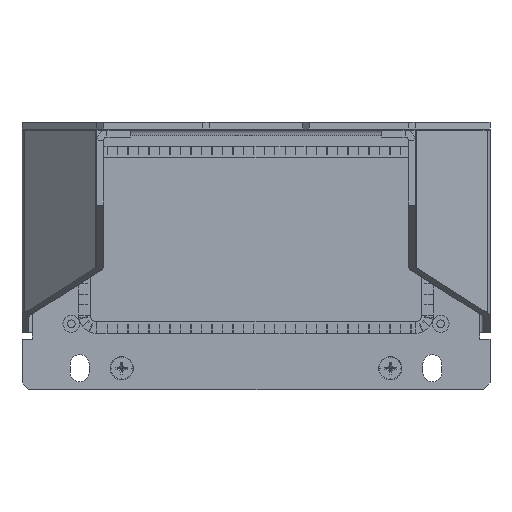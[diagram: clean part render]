
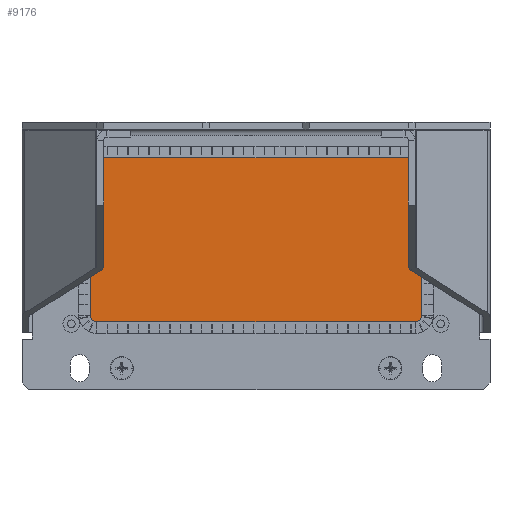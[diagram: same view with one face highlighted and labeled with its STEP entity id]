
A CAD part, left-side view. The second image highlights one B-rep face of the part: STEP entity #9176.
In plain terms, the highlighted planar face has unit normal (-1, 0, 0) as drawn and (0, 0, -1) by its records, which use the part's own axes.
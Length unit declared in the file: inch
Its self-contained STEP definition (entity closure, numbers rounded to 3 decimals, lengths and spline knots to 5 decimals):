
#8773=CARTESIAN_POINT('',(-1.25,2.75,-0.048));
#8774=DIRECTION('',(0.,0.,1.));
#8775=DIRECTION('',(-1.,0.,0.));
#8776=AXIS2_PLACEMENT_3D('',#8773,#8774,#8775);
#8778=CARTESIAN_POINT('',(-1.25,2.75,-0.048));
#8779=DIRECTION('',(0.,0.,1.));
#8780=DIRECTION('',(1.,0.,0.));
#8781=AXIS2_PLACEMENT_3D('',#8778,#8779,#8780);
#8783=CARTESIAN_POINT('',(1.25,2.75,-0.048));
#8784=DIRECTION('',(0.,0.,-1.));
#8785=DIRECTION('',(1.,0.,0.));
#8786=AXIS2_PLACEMENT_3D('',#8783,#8784,#8785);
#8788=CARTESIAN_POINT('',(1.25,2.75,-0.048));
#8789=DIRECTION('',(0.,0.,-1.));
#8790=DIRECTION('',(-1.,0.,0.));
#8791=AXIS2_PLACEMENT_3D('',#8788,#8789,#8790);
#8793=CARTESIAN_POINT('',(-1.25,-2.75,-0.048));
#8794=DIRECTION('',(0.,0.,-1.));
#8795=DIRECTION('',(-1.,0.,0.));
#8796=AXIS2_PLACEMENT_3D('',#8793,#8794,#8795);
#8798=CARTESIAN_POINT('',(-1.25,-2.75,-0.048));
#8799=DIRECTION('',(0.,0.,-1.));
#8800=DIRECTION('',(1.,0.,0.));
#8801=AXIS2_PLACEMENT_3D('',#8798,#8799,#8800);
#8803=CARTESIAN_POINT('',(1.25,-2.75,-0.048));
#8804=DIRECTION('',(0.,0.,1.));
#8805=DIRECTION('',(1.,0.,0.));
#8806=AXIS2_PLACEMENT_3D('',#8803,#8804,#8805);
#8808=CARTESIAN_POINT('',(1.25,-2.75,-0.048));
#8809=DIRECTION('',(0.,0.,1.));
#8810=DIRECTION('',(-1.,0.,0.));
#8811=AXIS2_PLACEMENT_3D('',#8808,#8809,#8810);
#8813=CARTESIAN_POINT('',(-1.375,2.875,-0.048));
#8814=DIRECTION('',(0.,0.,-1.));
#8815=DIRECTION('',(-1.,0.,0.));
#8816=AXIS2_PLACEMENT_3D('',#8813,#8814,#8815);
#8818=DIRECTION('',(0.,-1.,0.));
#8819=VECTOR('',#8818,5.75);
#8820=CARTESIAN_POINT('',(-1.5,2.875,-0.048));
#8821=LINE('',#8820,#8819);
#8822=CARTESIAN_POINT('',(-1.375,-2.875,-0.048));
#8823=DIRECTION('',(0.,0.,-1.));
#8824=DIRECTION('',(0.,-1.,0.));
#8825=AXIS2_PLACEMENT_3D('',#8822,#8823,#8824);
#8827=DIRECTION('',(1.,0.,0.));
#8828=VECTOR('',#8827,2.75);
#8829=CARTESIAN_POINT('',(-1.375,-3.,-0.048));
#8830=LINE('',#8829,#8828);
#8831=CARTESIAN_POINT('',(1.375,-2.875,-0.048));
#8832=DIRECTION('',(0.,0.,-1.));
#8833=DIRECTION('',(1.,0.,0.));
#8834=AXIS2_PLACEMENT_3D('',#8831,#8832,#8833);
#8836=DIRECTION('',(0.,1.,0.));
#8837=VECTOR('',#8836,5.75);
#8838=CARTESIAN_POINT('',(1.5,-2.875,-0.048));
#8839=LINE('',#8838,#8837);
#8840=CARTESIAN_POINT('',(1.375,2.875,-0.048));
#8841=DIRECTION('',(0.,0.,-1.));
#8842=DIRECTION('',(0.,1.,0.));
#8843=AXIS2_PLACEMENT_3D('',#8840,#8841,#8842);
#8845=DIRECTION('',(-1.,0.,0.));
#8846=VECTOR('',#8845,2.75);
#8847=CARTESIAN_POINT('',(1.375,3.,-0.048));
#8848=LINE('',#8847,#8846);
#8967=CARTESIAN_POINT('',(-1.332,2.75,-0.048));
#8968=CARTESIAN_POINT('',(-1.168,2.75,-0.048));
#8969=VERTEX_POINT('',#8967);
#8970=VERTEX_POINT('',#8968);
#8979=CARTESIAN_POINT('',(1.332,2.75,-0.048));
#8980=CARTESIAN_POINT('',(1.168,2.75,-0.048));
#8981=VERTEX_POINT('',#8979);
#8982=VERTEX_POINT('',#8980);
#8991=CARTESIAN_POINT('',(-1.332,-2.75,-0.048));
#8992=CARTESIAN_POINT('',(-1.168,-2.75,-0.048));
#8993=VERTEX_POINT('',#8991);
#8994=VERTEX_POINT('',#8992);
#9003=CARTESIAN_POINT('',(1.332,-2.75,-0.048));
#9004=CARTESIAN_POINT('',(1.168,-2.75,-0.048));
#9005=VERTEX_POINT('',#9003);
#9006=VERTEX_POINT('',#9004);
#9011=CARTESIAN_POINT('',(-1.5,2.875,-0.048));
#9012=VERTEX_POINT('',#9011);
#9013=CARTESIAN_POINT('',(-1.375,3.,-0.048));
#9014=VERTEX_POINT('',#9013);
#9019=CARTESIAN_POINT('',(1.375,3.,-0.048));
#9020=VERTEX_POINT('',#9019);
#9021=CARTESIAN_POINT('',(1.5,2.875,-0.048));
#9022=VERTEX_POINT('',#9021);
#9027=CARTESIAN_POINT('',(-1.375,-3.,-0.048));
#9028=VERTEX_POINT('',#9027);
#9029=CARTESIAN_POINT('',(-1.5,-2.875,-0.048));
#9030=VERTEX_POINT('',#9029);
#9035=CARTESIAN_POINT('',(1.5,-2.875,-0.048));
#9036=VERTEX_POINT('',#9035);
#9037=CARTESIAN_POINT('',(1.375,-3.,-0.048));
#9038=VERTEX_POINT('',#9037);
#9130=CARTESIAN_POINT('',(0.,0.,-0.048));
#9131=DIRECTION('',(0.,0.,1.));
#9132=DIRECTION('',(1.,0.,0.));
#9133=AXIS2_PLACEMENT_3D('',#9130,#9131,#9132);
#9134=PLANE('',#9133);
#9136=ORIENTED_EDGE('',*,*,#9135,.F.);
#9138=ORIENTED_EDGE('',*,*,#9137,.T.);
#9140=ORIENTED_EDGE('',*,*,#9139,.F.);
#9142=ORIENTED_EDGE('',*,*,#9141,.T.);
#9144=ORIENTED_EDGE('',*,*,#9143,.F.);
#9146=ORIENTED_EDGE('',*,*,#9145,.T.);
#9148=ORIENTED_EDGE('',*,*,#9147,.F.);
#9150=ORIENTED_EDGE('',*,*,#9149,.T.);
#9151=EDGE_LOOP('',(#9136,#9138,#9140,#9142,#9144,#9146,#9148,#9150));
#9152=FACE_OUTER_BOUND('',#9151,.F.);
#9154=ORIENTED_EDGE('',*,*,#9153,.F.);
#9155=ORIENTED_EDGE('',*,*,#9120,.F.);
#9156=EDGE_LOOP('',(#9154,#9155));
#9157=FACE_BOUND('',#9156,.F.);
#9159=ORIENTED_EDGE('',*,*,#9158,.T.);
#9161=ORIENTED_EDGE('',*,*,#9160,.T.);
#9162=EDGE_LOOP('',(#9159,#9161));
#9163=FACE_BOUND('',#9162,.F.);
#9165=ORIENTED_EDGE('',*,*,#9164,.T.);
#9167=ORIENTED_EDGE('',*,*,#9166,.T.);
#9168=EDGE_LOOP('',(#9165,#9167));
#9169=FACE_BOUND('',#9168,.F.);
#9171=ORIENTED_EDGE('',*,*,#9170,.F.);
#9173=ORIENTED_EDGE('',*,*,#9172,.F.);
#9174=EDGE_LOOP('',(#9171,#9173));
#9175=FACE_BOUND('',#9174,.F.);
#9176=ADVANCED_FACE('',(#9152,#9157,#9163,#9169,#9175),#9134,.F.);
#8777=CIRCLE('',#8776,0.082);
#8782=CIRCLE('',#8781,0.082);
#8787=CIRCLE('',#8786,0.082);
#8792=CIRCLE('',#8791,0.082);
#8797=CIRCLE('',#8796,0.082);
#8802=CIRCLE('',#8801,0.082);
#8807=CIRCLE('',#8806,0.082);
#8812=CIRCLE('',#8811,0.082);
#8817=CIRCLE('',#8816,0.125);
#8826=CIRCLE('',#8825,0.125);
#8835=CIRCLE('',#8834,0.125);
#8844=CIRCLE('',#8843,0.125);
#9120=EDGE_CURVE('',#8970,#8969,#8782,.T.);
#9135=EDGE_CURVE('',#9012,#9014,#8817,.T.);
#9137=EDGE_CURVE('',#9012,#9030,#8821,.T.);
#9139=EDGE_CURVE('',#9028,#9030,#8826,.T.);
#9141=EDGE_CURVE('',#9028,#9038,#8830,.T.);
#9143=EDGE_CURVE('',#9036,#9038,#8835,.T.);
#9145=EDGE_CURVE('',#9036,#9022,#8839,.T.);
#9147=EDGE_CURVE('',#9020,#9022,#8844,.T.);
#9149=EDGE_CURVE('',#9020,#9014,#8848,.T.);
#9153=EDGE_CURVE('',#8969,#8970,#8777,.T.);
#9158=EDGE_CURVE('',#8981,#8982,#8787,.T.);
#9160=EDGE_CURVE('',#8982,#8981,#8792,.T.);
#9164=EDGE_CURVE('',#8993,#8994,#8797,.T.);
#9166=EDGE_CURVE('',#8994,#8993,#8802,.T.);
#9170=EDGE_CURVE('',#9005,#9006,#8807,.T.);
#9172=EDGE_CURVE('',#9006,#9005,#8812,.T.);
